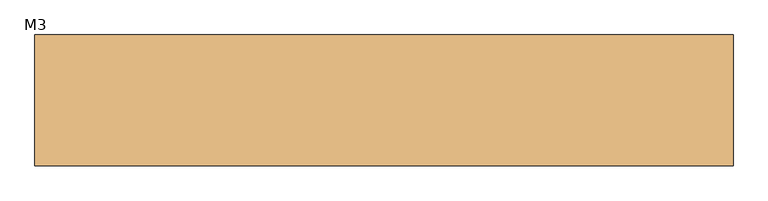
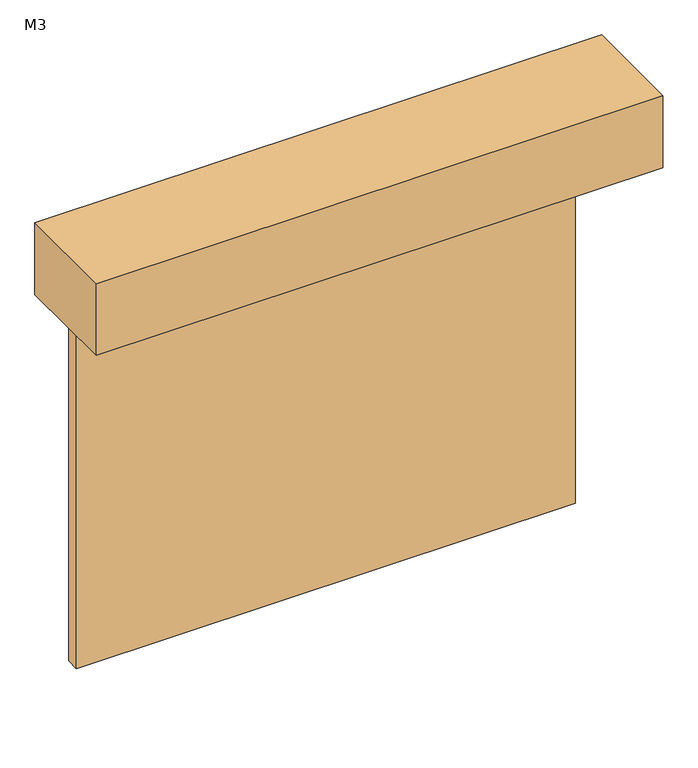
"""IFC4 building model written with IfcOpenShell, lengths in millimetres: door geometry, 滑升门 : M3."""

from ifc_helpers import new_model, si_unit, frame, origin, origin_with_axes, place, context, project, spatial, polyline, outline, extrude, source, transform, mapped, element, save


def m3_c4b16c2e(model_context):
    return source(origin(), model_context, "Body", "SweptSolid", [
        extrude(outline(polyline([(1500.0, -130.0), (1500.0, -210.0), (-1500.0, -210.0), (-1500.0, -130.0), (1500.0, -130.0)])), origin_with_axes(), (0.0, 0.0, 1.0), 2400.0),
        extrude(outline(polyline([(1703.2, -768.8), (-1703.2, -768.8), (-1703.2, -130.0), (1703.2, -130.0), (1703.2, -768.8)])), frame((0.0, 0.0, 2400.0), z_axis=(0.0, 0.0, 1.0), x_axis=(1.0, 0.0, 0.0)), (0.0, 0.0, 1.0), 457.2),
    ])


if __name__ == "__main__":
    model = new_model("IFC4")
    model_context = context("Model", 3, world=origin())
    ifc_project = project(units=[si_unit("LENGTHUNIT", "METRE", prefix="MILLI")], contexts=[model_context])
    site = spatial("IfcSite", under=ifc_project)
    building = spatial("IfcBuilding", under=site)
    placement = place(None, origin())
    m3_shape = m3_c4b16c2e(model_context)
    element("IfcDoor", 1, ObjectType="滑升门 : M3", at=placement, inside=building, context=model_context, shape_type="MappedRepresentation", body=[
        mapped(m3_shape, transform((0.0, 0.0, 0.0), x_axis=(1.0, 0.0, 0.0), y_axis=(0.0, 1.0, 0.0), z_axis=(0.0, 0.0, 1.0))),
    ])
    save(model, "model.ifc")
